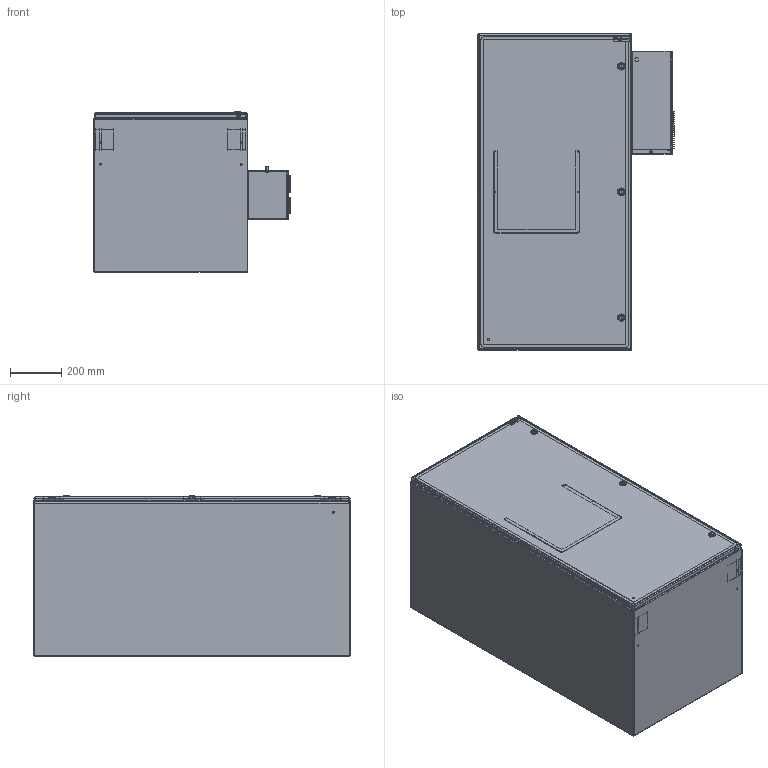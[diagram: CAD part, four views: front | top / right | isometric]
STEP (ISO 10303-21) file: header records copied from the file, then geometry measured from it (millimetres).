
FILE_DESCRIPTION (( 'STEP AP203' ), '1' );
FILE_NAME ('ptrs482424xa.STEP', '2011-12-06T15:50:08', ( 'Hoffman User' ), ( 'Hoffman Enclosures' ), 'SwSTEP 2.0', 'SolidWorks 2010', '' );
FILE_SCHEMA (( 'CONFIG_CONTROL_DESIGN' ));
Length unit declared in the file: millimetre
Products named in the file (41): ptrs482424xa; 89080388; 89079022; 89079021; 87846299_Config-Drawing; 89079026; 89079025; 89080384; 89080382; 87951490; 87951464; 89056623; 87543026; 89077258_WITH PRINT POCKET AND LATCHES; 89077257; 99401226_After Weld; 87751114_87751114; 89077260; 23418001; 64138001; 31122001_31122001; 99411090; 99408537; 99407583; 87956867; 99405181; 87956872; 87956875; 99406294; 87956873; 87956874; 87930615; 87928711; 87929769_Installed on Pin; 89060606_89060606; 89077147; 89072125_GUIDE HOLES REMOVED; 89077150; 87928600; 89080407
Assembly tree (67 placements, depth 5):
  ptrs482424xa
    89077150
      89072125_GUIDE HOLES REMOVED
    89077258_WITH PRINT POCKET AND LATCHES
      99411090  x3
        99407583
          99405181
          87956867
          87956872
          87956875
        99406294
          87956874
          87956873
        99408537
      31122001_31122001  x3
      89077260
      64138001  x2
      87751114_87751114  x2
      99401226_After Weld
      23418001
      89077257
    87930615  x3
      87928711
      87929769_Installed on Pin
    89077147
      89072125_GUIDE HOLES REMOVED
    87951490  x3
      89056623
      87951464
    89060606_89060606  x2
    89080407
    87543026  x3
    87928600
    89080388
      89079022
        87846299_Config-Drawing  x6
        89079021
      89080384
        99401226_After Weld  x4
        89080382
      89079026
        99401226_After Weld  x5
        89079025
Bounding box: 765.01 x 1233.71 x 624.19 mm (x, y, z)
Volume: 7614059.4 mm3; surface area: 9066785.1 mm2
Topology: 70 solids, 98 shells, 6897 faces, 18431 edges, 11850 vertices
Faces by surface type: plane 3414, cylinder 1735, bspline 1387, cone 187, torus 158, sphere 16
Entity records: 243051 total; most frequent: CARTESIAN_POINT 107579, ORIENTED_EDGE 28556, DIRECTION 22852, EDGE_CURVE 14733, VERTEX_POINT 9592, VECTOR 9470, LINE 9470, AXIS2_PLACEMENT_3D 6691
